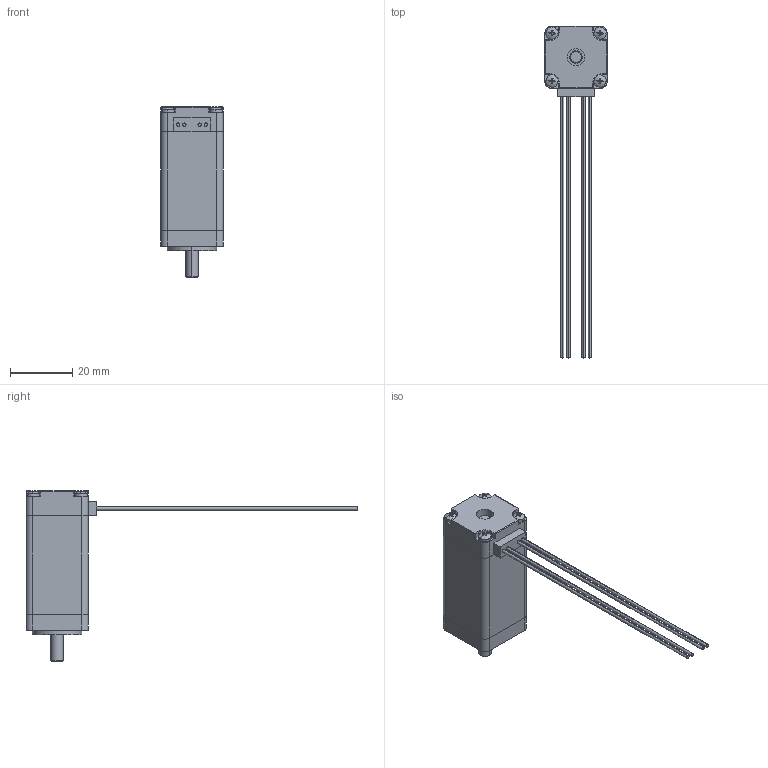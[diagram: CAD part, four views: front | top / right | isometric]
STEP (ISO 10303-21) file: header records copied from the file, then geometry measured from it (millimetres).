
FILE_DESCRIPTION (( 'STEP AP214' ), '1' );
FILE_NAME ('20BYGH245-0604A.STEP', '2020-05-21T07:44:58', ( 'Windows' ), ( 'Microsoft' ), 'SwSTEP 2.0', 'SolidWorks 2015', '' );
FILE_SCHEMA (( 'AUTOMOTIVE_DESIGN' ));
Length unit declared in the file: millimetre
Products named in the file (7): 20BYGH245-0604A; 28A-D9-001; 20B-D9-001; 隅赽; 堤盄; 粣; cross recessed pan head screws gb_GB_CROSS_SCREWS_TYPE1 M2X20-20  H type-N
Assembly tree (9 placements, depth 2):
  20BYGH245-0604A
    28A-D9-001
    20B-D9-001
    隅赽
    堤盄
    粣
    cross recessed pan head screws gb_GB_CROSS_SCREWS_TYPE1 M2X20-20  H type-N  x4
Bounding box: 20 x 106.8 x 54.85 mm (x, y, z)
Volume: 18329.5 mm3; surface area: 9467.9 mm2
Topology: 9 solids, 9 shells, 240 faces, 608 edges, 388 vertices
Faces by surface type: plane 114, cylinder 102, sphere 16, torus 4, cone 4
Entity records: 6240 total; most frequent: DIRECTION 922, CARTESIAN_POINT 879, ORIENTED_EDGE 804, EDGE_CURVE 402, AXIS2_PLACEMENT_3D 355, VERTEX_POINT 256, LINE 212, VECTOR 212
